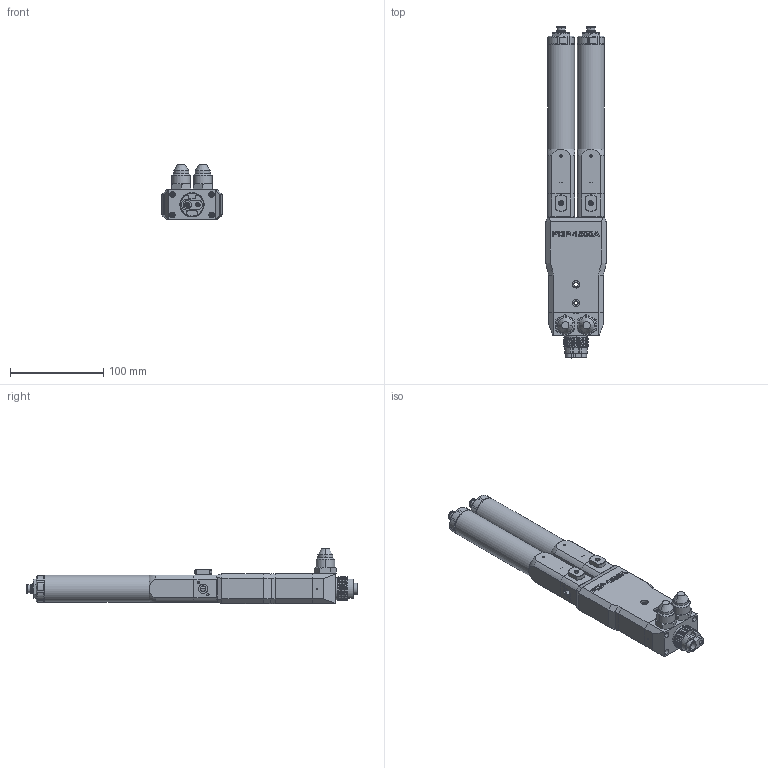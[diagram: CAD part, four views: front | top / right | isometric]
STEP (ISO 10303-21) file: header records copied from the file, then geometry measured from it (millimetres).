
FILE_DESCRIPTION (( 'STEP AP214' ), '1' );
FILE_NAME ('PDPM-1500-1000FB.STEP', '2024-10-11T12:34:56', ( '' ), ( '' ), 'SwSTEP 2.0', 'SolidWorks 2024', '' );
FILE_SCHEMA (( 'AUTOMOTIVE_DESIGN' ));
Length unit declared in the file: millimetre
Products named in the file (1): PDPM-1500-1000FB
Bounding box: 65 x 356 x 59.3 mm (x, y, z)
Volume: 531276.8 mm3; surface area: 127730.6 mm2
Topology: 12 solids, 12 shells, 1592 faces, 4052 edges, 2583 vertices
Faces by surface type: plane 767, cylinder 476, cone 307, bspline 22, torus 12, sphere 8
Full cylindrical faces by diameter (mm): 29 x2
Entity records: 59959 total; most frequent: CARTESIAN_POINT 21653, ORIENTED_EDGE 8028, DIRECTION 7859, EDGE_CURVE 4014, AXIS2_PLACEMENT_3D 2806, VERTEX_POINT 2583, VECTOR 2247, LINE 2247
